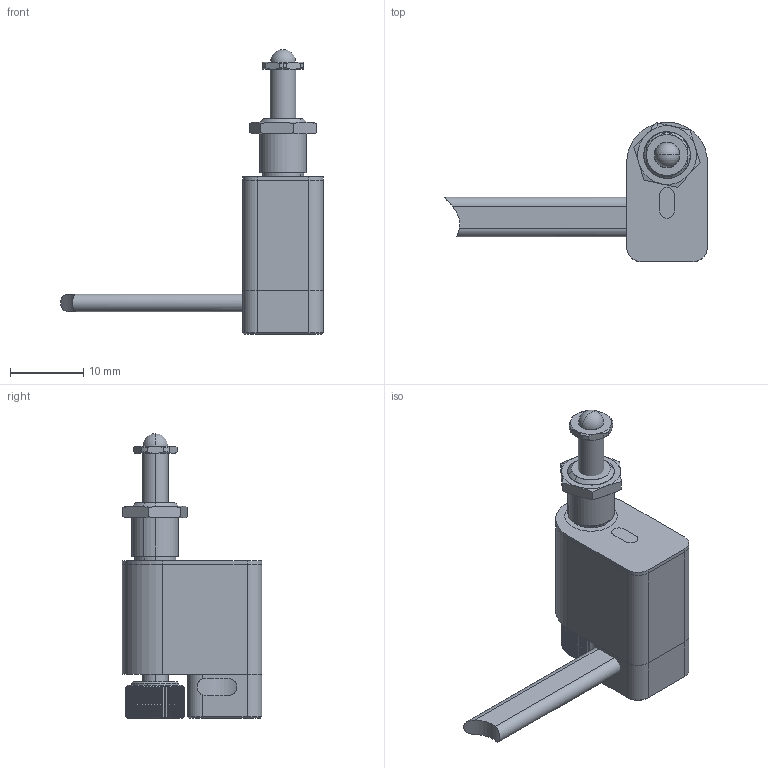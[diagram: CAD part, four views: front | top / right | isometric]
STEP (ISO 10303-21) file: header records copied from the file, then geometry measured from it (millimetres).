
FILE_DESCRIPTION (( 'STEP AP203' ), '1' );
FILE_NAME ('N81S-潠趙.STEP', '2024-03-22T01:42:40', ( 'User' ), ( 'China' ), 'SwSTEP 2.0', 'SolidWorks 2016', '' );
FILE_SCHEMA (( 'CONFIG_CONTROL_DESIGN' ));
Length unit declared in the file: millimetre
Products named in the file (1): N81S-潠趙
Bounding box: 35.8 x 19 x 38.8 mm (x, y, z)
Surface area: 3335.2 mm2 (no closed solid volume)
Topology: 0 solids, 13 shells, 408 faces, 1189 edges, 796 vertices
Faces by surface type: cylinder 180, plane 177, cone 48, sphere 2, bspline 1
Entity records: 16892 total; most frequent: CARTESIAN_POINT 6846, ORIENTED_EDGE 2245, DIRECTION 1785, EDGE_CURVE 1185, VERTEX_POINT 794, AXIS2_PLACEMENT_3D 678, B_SPLINE_CURVE_WITH_KNOTS 476, LINE 429
